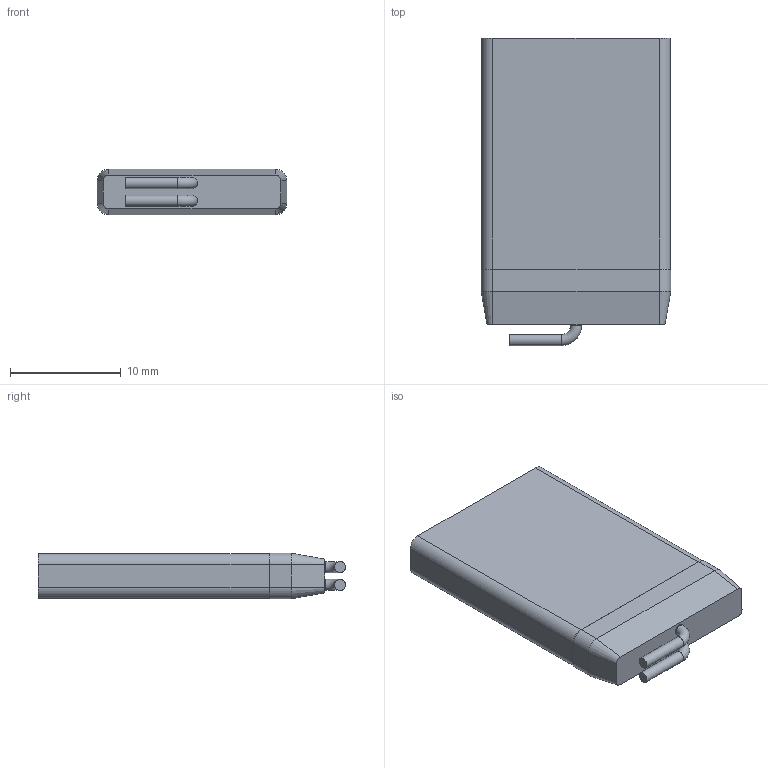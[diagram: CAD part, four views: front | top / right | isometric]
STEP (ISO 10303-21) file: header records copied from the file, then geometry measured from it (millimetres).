
FILE_DESCRIPTION(/* description */ ('STEP AP242 Edition 2','CAx-IF Rec.Pracs.---Representation and Presentation of Product Manufacturing Information (PMI)---4.0---2014-10-13','CAx-IF Rec.Pracs.---3D Tessellated Geometry---0.4---2014-09-14','2;1','CAx-IF Rec.Pracs.---User Defined Attributes---1.5---2016-08-15'),/* implementation_level */ '2;1');
FILE_NAME(/* name */ 'Assembly 1 - Lp401730',/* time_stamp */ '2026-09-16T18:36:10Z',/* author */ (''),/* organization */ (''),/* preprocessor_version */ 'ST-DEVELOPER v20',/* originating_system */ 'ONSHAPE BY PTC INC, 1.220',/* authorisation */ ' ');
FILE_SCHEMA (('AP242_MANAGED_MODEL_BASED_3D_ENGINEERING_MIM_LF { 1 0 10303 442 3 1 4 }'));
Products named in the file (1): Lp401730
Bounding box: 17.1 x 27.71 x 4.1 mm (x, y, z)
Volume: 1718.9 mm3; surface area: 1228.3 mm2
Topology: 1 solids, 1 shells, 2133 faces, 6184 edges, 4117 vertices
Faces by surface type: plane 1504, cylinder 623, cone 4, torus 2
Full cylindrical faces by diameter (mm): 1 x4
Entity records: 84870 total; most frequent: CARTESIAN_POINT 12942, ORIENTED_EDGE 12350, DIRECTION 11521, EDGE_CURVE 6175, LINE 4751, VECTOR 4751, VERTEX_POINT 4114, AXIS2_PLACEMENT_3D 3385
